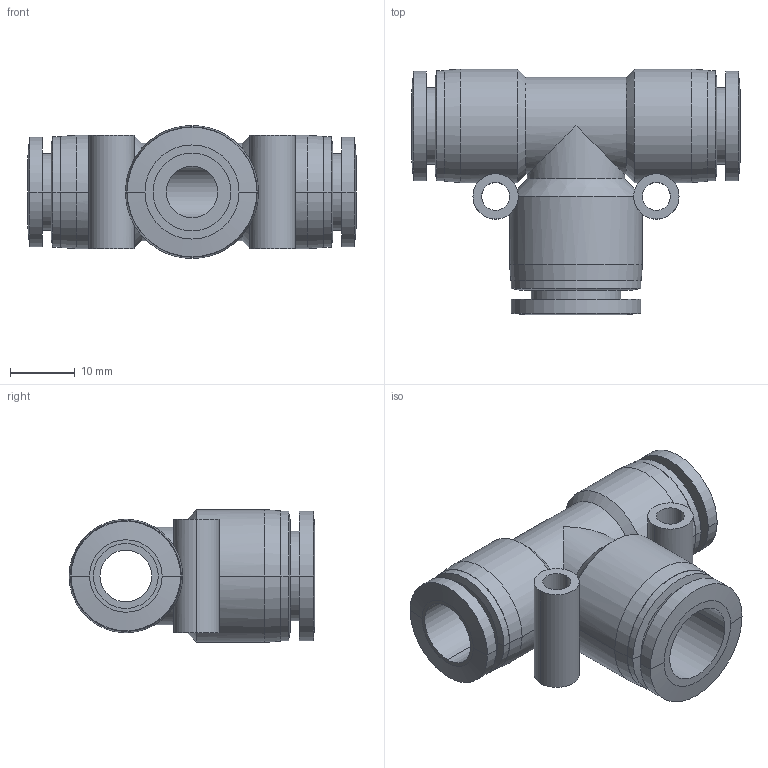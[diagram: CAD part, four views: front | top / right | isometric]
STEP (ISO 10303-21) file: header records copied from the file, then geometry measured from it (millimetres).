
FILE_DESCRIPTION (( 'STEP AP203' ), '1' );
FILE_NAME ('FRT12-10.STEP', '2020-05-12T19:26:39', ( '' ), ( '' ), 'SwSTEP 2.0', 'SolidWorks 2019', '' );
FILE_SCHEMA (( 'CONFIG_CONTROL_DESIGN' ));
Length unit declared in the file: millimetre
Products named in the file (1): FRT12-10
Bounding box: 50.6 x 37.9 x 20.5 mm (x, y, z)
Volume: 11512.4 mm3; surface area: 8707 mm2
Topology: 1 solids, 1 shells, 90 faces, 203 edges, 124 vertices
Faces by surface type: cylinder 47, cone 24, plane 19
Entity records: 3112 total; most frequent: CARTESIAN_POINT 956, DIRECTION 471, ORIENTED_EDGE 406, EDGE_CURVE 203, AXIS2_PLACEMENT_3D 197, VERTEX_POINT 124, EDGE_LOOP 111, CIRCLE 106
